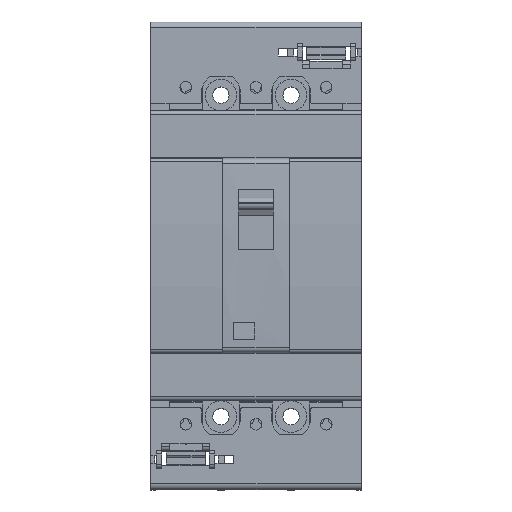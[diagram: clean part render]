
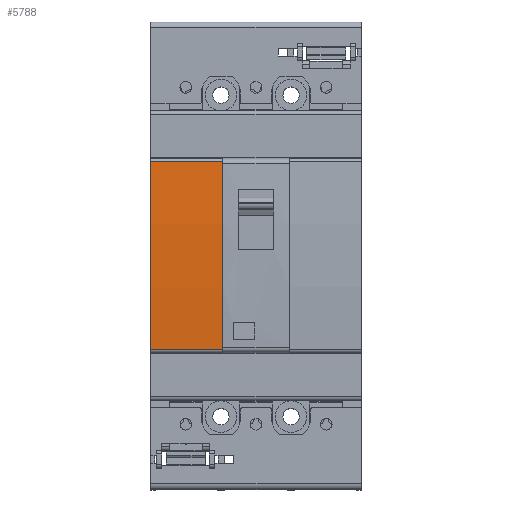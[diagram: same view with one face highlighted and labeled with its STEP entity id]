
A CAD part, top view. The second image highlights one B-rep face of the part: STEP entity #5788.
In plain terms, the highlighted cylindrical face has radius 350 mm (diameter 700 mm), a partial arc.
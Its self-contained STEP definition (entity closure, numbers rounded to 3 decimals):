
#576 = FACE_OUTER_BOUND ( 'NONE', #1356, .T. ) ;
#926 = EDGE_CURVE ( 'NONE', #3037, #10616, #8631, .T. ) ;
#1356 = EDGE_LOOP ( 'NONE', ( #3387, #2933, #8909, #6463 ) ) ;
#1898 = CARTESIAN_POINT ( 'NONE',  ( -8.5, -24.069, 71.158 ) ) ;
#2283 = AXIS2_PLACEMENT_3D ( 'NONE', #8686, #7542, #6409 ) ;
#2394 = CIRCLE ( 'NONE', #6600, 350. ) ;
#2398 = AXIS2_PLACEMENT_3D ( 'NONE', #8705, #7565, #6428 ) ;
#2933 = ORIENTED_EDGE ( 'NONE', *, *, #5467, .T. ) ;
#2976 = DIRECTION ( 'NONE',  ( 0., 0., -1. ) ) ;
#3037 = VERTEX_POINT ( 'NONE', #1898 ) ;
#3387 = ORIENTED_EDGE ( 'NONE', *, *, #6594, .T. ) ;
#4118 = DIRECTION ( 'NONE',  ( -1., 0., 0. ) ) ;
#4969 = EDGE_CURVE ( 'NONE', #6420, #10616, #5945, .T. ) ;
#5121 = CARTESIAN_POINT ( 'NONE',  ( -27., 24.068, 71.185 ) ) ;
#5374 = VERTEX_POINT ( 'NONE', #7822 ) ;
#5467 = EDGE_CURVE ( 'NONE', #5374, #6420, #8145, .T. ) ;
#5788 = ADVANCED_FACE ( 'NONE', ( #576 ), #8524, .T. ) ;
#5887 = DIRECTION ( 'NONE',  ( -1., 0., 0. ) ) ;
#5945 = CIRCLE ( 'NONE', #2398, 350. ) ;
#6355 = DIRECTION ( 'NONE',  ( -1., 0., 0. ) ) ;
#6409 = DIRECTION ( 'NONE',  ( 0., 0., 1. ) ) ;
#6420 = VERTEX_POINT ( 'NONE', #5121 ) ;
#6428 = DIRECTION ( 'NONE',  ( 0., 0., -1. ) ) ;
#6463 = ORIENTED_EDGE ( 'NONE', *, *, #926, .F. ) ;
#6594 = EDGE_CURVE ( 'NONE', #3037, #5374, #2394, .T. ) ;
#6600 = AXIS2_PLACEMENT_3D ( 'NONE', #9799, #4118, #2976 ) ;
#7021 = CARTESIAN_POINT ( 'NONE',  ( 27., 24.068, 71.185 ) ) ;
#7488 = CARTESIAN_POINT ( 'NONE',  ( 27., -24.069, 71.158 ) ) ;
#7542 = DIRECTION ( 'NONE',  ( -1., 0., 0. ) ) ;
#7565 = DIRECTION ( 'NONE',  ( 1., 0., 0. ) ) ;
#7822 = CARTESIAN_POINT ( 'NONE',  ( -8.5, 24.068, 71.185 ) ) ;
#8145 = LINE ( 'NONE', #7021, #10176 ) ;
#8524 = CYLINDRICAL_SURFACE ( 'NONE', #2283, 350. ) ;
#8631 = LINE ( 'NONE', #7488, #8657 ) ;
#8657 = VECTOR ( 'NONE', #6355, 1000. ) ;
#8686 = CARTESIAN_POINT ( 'NONE',  ( 27., 0.2, -278. ) ) ;
#8705 = CARTESIAN_POINT ( 'NONE',  ( -27., 0.2, -278. ) ) ;
#8909 = ORIENTED_EDGE ( 'NONE', *, *, #4969, .T. ) ;
#9799 = CARTESIAN_POINT ( 'NONE',  ( -8.5, 0.2, -278. ) ) ;
#10176 = VECTOR ( 'NONE', #5887, 1000. ) ;
#10616 = VERTEX_POINT ( 'NONE', #10860 ) ;
#10860 = CARTESIAN_POINT ( 'NONE',  ( -27., -24.069, 71.158 ) ) ;
